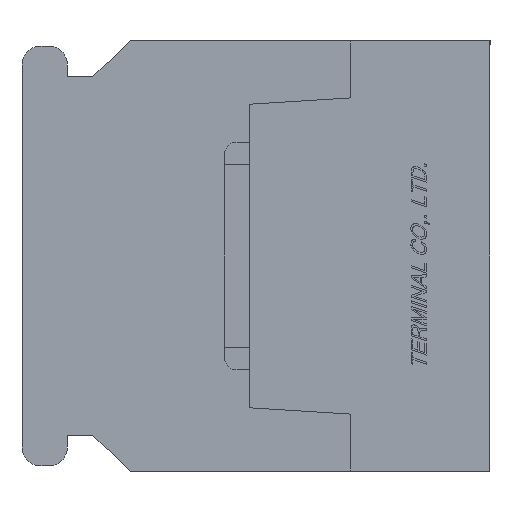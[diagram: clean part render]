
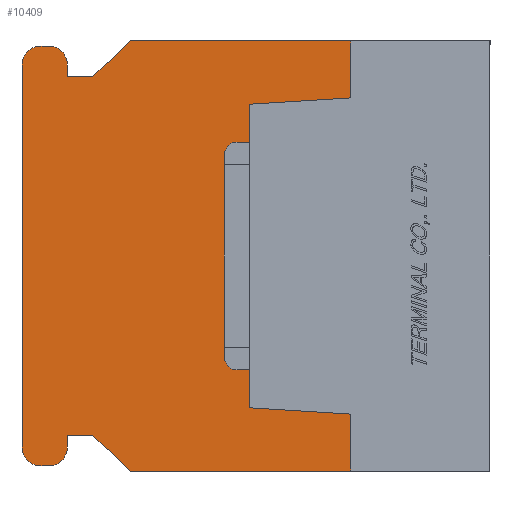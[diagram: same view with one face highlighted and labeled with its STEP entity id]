
A CAD part, left-side view. The second image highlights one B-rep face of the part: STEP entity #10409.
In plain terms, the highlighted planar face has unit normal (-1, 0, 0).
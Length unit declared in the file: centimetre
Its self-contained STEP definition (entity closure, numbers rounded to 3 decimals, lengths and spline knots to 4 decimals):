
#1186=VECTOR('',#12385,1.);
#1189=VECTOR('',#12389,1.);
#1191=VECTOR('',#12392,1.);
#1193=VECTOR('',#12395,1.);
#1195=VECTOR('',#12398,1.);
#1247=VECTOR('',#12491,1.);
#1249=VECTOR('',#12494,1.);
#1251=VECTOR('',#12497,1.);
#1253=VECTOR('',#12500,1.);
#1256=VECTOR('',#12508,1.);
#1259=VECTOR('',#12516,1.);
#1262=VECTOR('',#12524,1.);
#1265=VECTOR('',#12532,1.);
#1267=VECTOR('',#12535,1.);
#1269=VECTOR('',#12538,1.);
#1270=VECTOR('',#12540,1.);
#2338=LINE('',#15445,#1186);
#2341=LINE('',#15451,#1189);
#2343=LINE('',#15455,#1191);
#2345=LINE('',#15459,#1193);
#2347=LINE('',#15463,#1195);
#2399=LINE('',#15583,#1247);
#2401=LINE('',#15587,#1249);
#2403=LINE('',#15591,#1251);
#2405=LINE('',#15595,#1253);
#2408=LINE('',#15603,#1256);
#2411=LINE('',#15611,#1259);
#2414=LINE('',#15619,#1262);
#2417=LINE('',#15627,#1265);
#2419=LINE('',#15631,#1267);
#2421=LINE('',#15635,#1269);
#2422=LINE('',#15637,#1270);
#3080=PLANE('',#11044);
#3826=VERTEX_POINT('',#15444);
#3827=VERTEX_POINT('',#15446);
#3828=VERTEX_POINT('',#15450);
#3829=VERTEX_POINT('',#15454);
#3830=VERTEX_POINT('',#15458);
#3831=VERTEX_POINT('',#15462);
#3868=VERTEX_POINT('',#15582);
#3869=VERTEX_POINT('',#15586);
#3870=VERTEX_POINT('',#15590);
#3871=VERTEX_POINT('',#15594);
#3872=VERTEX_POINT('',#15598);
#3873=VERTEX_POINT('',#15602);
#3874=VERTEX_POINT('',#15606);
#3875=VERTEX_POINT('',#15610);
#3876=VERTEX_POINT('',#15614);
#3877=VERTEX_POINT('',#15618);
#3878=VERTEX_POINT('',#15622);
#3879=VERTEX_POINT('',#15626);
#3880=VERTEX_POINT('',#15630);
#3881=VERTEX_POINT('',#15634);
#4303=CIRCLE('',#11030,0.075);
#4304=CIRCLE('',#11033,0.075);
#4305=CIRCLE('',#11036,0.075);
#4306=CIRCLE('',#11039,0.075);
#5215=EDGE_CURVE('',#3827,#3826,#2338,.T.);
#5218=EDGE_CURVE('',#3826,#3828,#2341,.T.);
#5220=EDGE_CURVE('',#3828,#3829,#2343,.T.);
#5222=EDGE_CURVE('',#3829,#3830,#2345,.T.);
#5224=EDGE_CURVE('',#3830,#3831,#2347,.T.);
#5284=EDGE_CURVE('',#3868,#3831,#2399,.T.);
#5286=EDGE_CURVE('',#3869,#3868,#2401,.T.);
#5288=EDGE_CURVE('',#3870,#3869,#2403,.T.);
#5290=EDGE_CURVE('',#3871,#3870,#2405,.T.);
#5292=EDGE_CURVE('',#3872,#3871,#4303,.T.);
#5294=EDGE_CURVE('',#3873,#3872,#2408,.T.);
#5296=EDGE_CURVE('',#3874,#3873,#4304,.T.);
#5298=EDGE_CURVE('',#3875,#3874,#2411,.T.);
#5300=EDGE_CURVE('',#3876,#3875,#4305,.T.);
#5302=EDGE_CURVE('',#3877,#3876,#2414,.T.);
#5304=EDGE_CURVE('',#3878,#3877,#4306,.T.);
#5306=EDGE_CURVE('',#3879,#3878,#2417,.T.);
#5308=EDGE_CURVE('',#3880,#3879,#2419,.T.);
#5310=EDGE_CURVE('',#3881,#3880,#2421,.T.);
#5311=EDGE_CURVE('',#3827,#3881,#2422,.T.);
#7791=ORIENTED_EDGE('',*,*,#5224,.T.);
#7792=ORIENTED_EDGE('',*,*,#5284,.F.);
#7793=ORIENTED_EDGE('',*,*,#5286,.F.);
#7794=ORIENTED_EDGE('',*,*,#5288,.F.);
#7795=ORIENTED_EDGE('',*,*,#5290,.F.);
#7796=ORIENTED_EDGE('',*,*,#5292,.F.);
#7797=ORIENTED_EDGE('',*,*,#5294,.F.);
#7798=ORIENTED_EDGE('',*,*,#5296,.F.);
#7799=ORIENTED_EDGE('',*,*,#5298,.F.);
#7800=ORIENTED_EDGE('',*,*,#5300,.F.);
#7801=ORIENTED_EDGE('',*,*,#5302,.F.);
#7802=ORIENTED_EDGE('',*,*,#5304,.F.);
#7803=ORIENTED_EDGE('',*,*,#5306,.F.);
#7804=ORIENTED_EDGE('',*,*,#5308,.F.);
#7805=ORIENTED_EDGE('',*,*,#5310,.F.);
#7806=ORIENTED_EDGE('',*,*,#5311,.F.);
#7807=ORIENTED_EDGE('',*,*,#5215,.T.);
#7808=ORIENTED_EDGE('',*,*,#5218,.T.);
#7809=ORIENTED_EDGE('',*,*,#5220,.T.);
#7810=ORIENTED_EDGE('',*,*,#5222,.T.);
#9209=EDGE_LOOP('',(#7791,#7792,#7793,#7794,#7795,#7796,#7797,#7798,#7799,
#7800,#7801,#7802,#7803,#7804,#7805,#7806,#7807,#7808,#7809,#7810));
#9833=FACE_BOUND('',#9209,.T.);
#10409=ADVANCED_FACE('',(#9833),#3080,.F.);
#11030=AXIS2_PLACEMENT_3D('',#15599,#12504,#12505);
#11033=AXIS2_PLACEMENT_3D('',#15607,#12512,#12513);
#11036=AXIS2_PLACEMENT_3D('',#15615,#12520,#12521);
#11039=AXIS2_PLACEMENT_3D('',#15623,#12528,#12529);
#11044=AXIS2_PLACEMENT_3D('',#15638,#12541,$);
#12385=DIRECTION('',(0.,0.,1.));
#12389=DIRECTION('',(0.,0.998,0.062));
#12392=DIRECTION('',(0.,0.,1.));
#12395=DIRECTION('',(0.,-0.998,0.062));
#12398=DIRECTION('',(0.,0.,1.));
#12491=DIRECTION('',(0.,-1.,0.));
#12494=DIRECTION('',(0.,-0.731,0.682));
#12497=DIRECTION('',(0.,-1.,0.));
#12500=DIRECTION('',(0.,0.,-1.));
#12504=DIRECTION('',(1.,0.,0.));
#12505=DIRECTION('',(0.,0.,-0.075));
#12508=DIRECTION('',(0.,-1.,0.));
#12512=DIRECTION('',(1.,0.,0.));
#12513=DIRECTION('',(0.,0.,-0.075));
#12516=DIRECTION('',(0.,0.,1.));
#12520=DIRECTION('',(1.,0.,0.));
#12521=DIRECTION('',(0.,0.,-0.075));
#12524=DIRECTION('',(0.,1.,0.));
#12528=DIRECTION('',(1.,0.,0.));
#12529=DIRECTION('',(0.,0.,-0.075));
#12532=DIRECTION('',(0.,0.,-1.));
#12535=DIRECTION('',(0.,1.,0.));
#12538=DIRECTION('',(0.,0.731,0.682));
#12540=DIRECTION('',(0.,1.,0.));
#12541=DIRECTION('',(1.,0.,0.));
#15444=CARTESIAN_POINT('',(0.,0.55,-0.625));
#15445=CARTESIAN_POINT('',(0.,0.55,-0.3688));
#15446=CARTESIAN_POINT('',(0.,0.55,-0.85));
#15450=CARTESIAN_POINT('',(0.,0.95,-0.6));
#15451=CARTESIAN_POINT('',(0.,0.8629,-0.6054));
#15454=CARTESIAN_POINT('',(0.,0.95,0.6));
#15455=CARTESIAN_POINT('',(0.,0.95,0.));
#15458=CARTESIAN_POINT('',(0.,0.55,0.625));
#15459=CARTESIAN_POINT('',(0.,0.8629,0.6054));
#15462=CARTESIAN_POINT('',(0.,0.55,0.85));
#15463=CARTESIAN_POINT('',(0.,0.55,0.3687));
#15582=CARTESIAN_POINT('',(0.,1.42,0.85));
#15583=CARTESIAN_POINT('',(0.,1.42,0.85));
#15586=CARTESIAN_POINT('',(0.,1.57,0.71));
#15587=CARTESIAN_POINT('',(0.,1.57,0.71));
#15590=CARTESIAN_POINT('',(0.,1.67,0.71));
#15591=CARTESIAN_POINT('',(0.,1.67,0.71));
#15594=CARTESIAN_POINT('',(0.,1.67,0.755));
#15595=CARTESIAN_POINT('',(0.,1.67,0.755));
#15598=CARTESIAN_POINT('',(0.,1.745,0.83));
#15599=CARTESIAN_POINT('',(0.,1.745,0.755));
#15602=CARTESIAN_POINT('',(0.,1.775,0.83));
#15603=CARTESIAN_POINT('',(0.,1.775,0.83));
#15606=CARTESIAN_POINT('',(0.,1.85,0.755));
#15607=CARTESIAN_POINT('',(0.,1.775,0.755));
#15610=CARTESIAN_POINT('',(0.,1.85,-0.755));
#15611=CARTESIAN_POINT('',(0.,1.85,-0.755));
#15614=CARTESIAN_POINT('',(0.,1.775,-0.83));
#15615=CARTESIAN_POINT('',(0.,1.775,-0.755));
#15618=CARTESIAN_POINT('',(0.,1.745,-0.83));
#15619=CARTESIAN_POINT('',(0.,1.745,-0.83));
#15622=CARTESIAN_POINT('',(0.,1.67,-0.755));
#15623=CARTESIAN_POINT('',(0.,1.745,-0.755));
#15626=CARTESIAN_POINT('',(0.,1.67,-0.71));
#15627=CARTESIAN_POINT('',(0.,1.67,-0.71));
#15630=CARTESIAN_POINT('',(0.,1.57,-0.71));
#15631=CARTESIAN_POINT('',(0.,1.57,-0.71));
#15634=CARTESIAN_POINT('',(0.,1.42,-0.85));
#15635=CARTESIAN_POINT('',(0.,1.42,-0.85));
#15637=CARTESIAN_POINT('',(0.,0.,-0.85));
#15638=CARTESIAN_POINT('',(0.,0.9383,0.));
